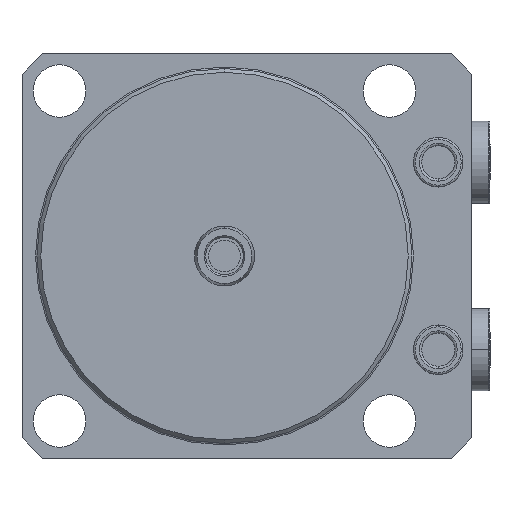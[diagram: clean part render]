
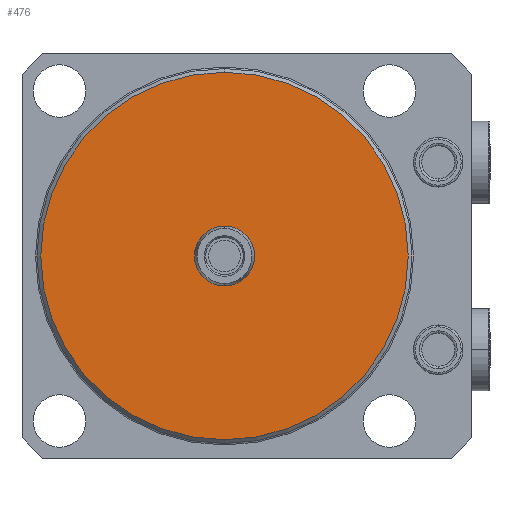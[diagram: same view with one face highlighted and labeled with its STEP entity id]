
A CAD part, front view. The second image highlights one B-rep face of the part: STEP entity #476.
In plain terms, the highlighted planar face has unit normal (0, -1, 0) as drawn and (0, 1, 0) by its records, which use the part's own axes.
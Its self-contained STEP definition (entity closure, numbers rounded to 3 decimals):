
#208=PLANE('',#4908);
#318=FACE_BOUND('',#1134,.F.);
#319=FACE_BOUND('',#1135,.F.);
#476=ADVANCED_FACE('',(#318,#319),#208,.T.);
#1134=EDGE_LOOP('',(#2023,#2024));
#1135=EDGE_LOOP('',(#2025,#2026));
#1415=CIRCLE('',#4781,8.);
#1470=CIRCLE('',#4859,49.);
#1494=CIRCLE('',#4906,8.);
#1495=CIRCLE('',#4907,49.);
#2023=ORIENTED_EDGE('',*,*,#3702,.T.);
#2024=ORIENTED_EDGE('',*,*,#3496,.T.);
#2025=ORIENTED_EDGE('',*,*,#3703,.T.);
#2026=ORIENTED_EDGE('',*,*,#3584,.T.);
#3060=VERTEX_POINT('',#6925);
#3061=VERTEX_POINT('',#6926);
#3132=VERTEX_POINT('',#7113);
#3133=VERTEX_POINT('',#7114);
#3496=EDGE_CURVE('',#3060,#3061,#1415,.T.);
#3584=EDGE_CURVE('',#3132,#3133,#1470,.T.);
#3702=EDGE_CURVE('',#3061,#3060,#1494,.T.);
#3703=EDGE_CURVE('',#3133,#3132,#1495,.T.);
#4781=AXIS2_PLACEMENT_3D('',#6924,#5431,#5432);
#4859=AXIS2_PLACEMENT_3D('',#7112,#5619,#5620);
#4906=AXIS2_PLACEMENT_3D('',#7462,#5777,#5778);
#4907=AXIS2_PLACEMENT_3D('',#7463,#5779,#5780);
#4908=AXIS2_PLACEMENT_3D('',#7464,#5781,#5782);
#5431=DIRECTION('',(0.,1.,0.));
#5432=DIRECTION('',(0.,0.,1.));
#5619=DIRECTION('',(0.,-1.,0.));
#5620=DIRECTION('',(0.,0.,1.));
#5777=DIRECTION('',(0.,1.,0.));
#5778=DIRECTION('',(0.,0.,1.));
#5779=DIRECTION('',(0.,-1.,0.));
#5780=DIRECTION('',(0.,0.,1.));
#5781=DIRECTION('',(0.,1.,0.));
#5782=DIRECTION('',(0.,0.,1.));
#6924=CARTESIAN_POINT('',(0.,-65.,0.));
#6925=CARTESIAN_POINT('',(0.,-65.,-8.));
#6926=CARTESIAN_POINT('',(0.,-65.,8.));
#7112=CARTESIAN_POINT('',(0.,-65.,0.));
#7113=CARTESIAN_POINT('',(0.,-65.,-49.));
#7114=CARTESIAN_POINT('',(0.,-65.,49.));
#7462=CARTESIAN_POINT('',(0.,-65.,0.));
#7463=CARTESIAN_POINT('',(0.,-65.,0.));
#7464=CARTESIAN_POINT('',(0.,-65.,0.));
